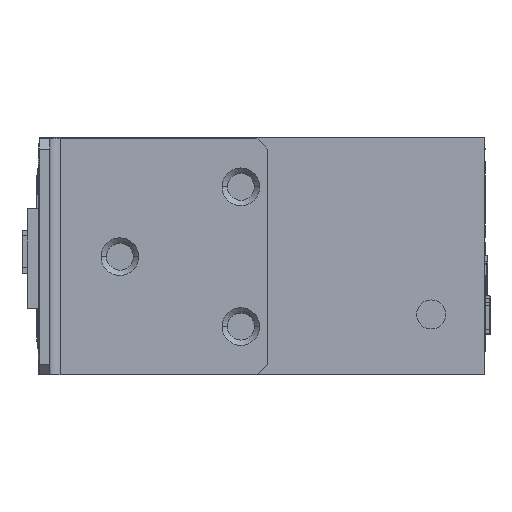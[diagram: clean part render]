
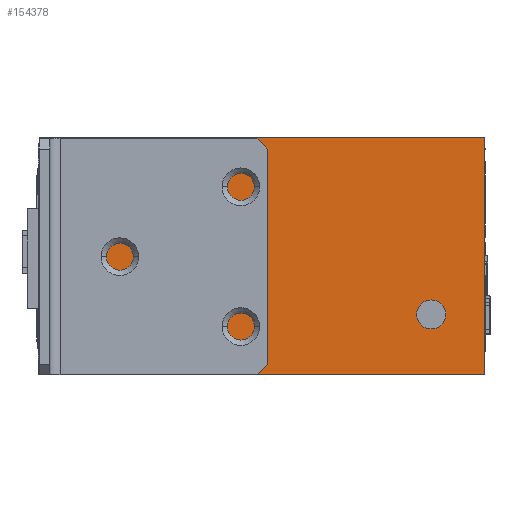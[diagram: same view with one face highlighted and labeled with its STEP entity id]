
A CAD part, left-side view. The second image highlights one B-rep face of the part: STEP entity #154378.
In plain terms, the highlighted planar face has unit normal (-1, 0, 0).
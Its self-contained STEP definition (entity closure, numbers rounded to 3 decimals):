
#34277 = ORIENTED_EDGE ( 'NONE', *, *, #112130, .F. ) ;
#56030 = DIRECTION ( 'NONE',  ( 0., -1., 0. ) ) ;
#63379 = ORIENTED_EDGE ( 'NONE', *, *, #468588, .F. ) ;
#67742 = CIRCLE ( 'NONE', #507630, 2.7 ) ;
#100846 = CARTESIAN_POINT ( 'NONE',  ( -175., 101.041, 12.933 ) ) ;
#112130 = EDGE_CURVE ( 'NONE', #193637, #161944, #117197, .T. ) ;
#117197 = LINE ( 'NONE', #156109, #364998 ) ;
#118470 = CARTESIAN_POINT ( 'NONE',  ( -175., 98.341, 12.933 ) ) ;
#148001 = LINE ( 'NONE', #288600, #244790 ) ;
#154378 = ADVANCED_FACE ( 'NONE', ( #366979, #193305 ), #277133, .T. ) ;
#156109 = CARTESIAN_POINT ( 'NONE',  ( -175., 173.941, 1.683 ) ) ;
#159054 = AXIS2_PLACEMENT_3D ( 'NONE', #274168, #459710, #232213 ) ;
#161944 = VERTEX_POINT ( 'NONE', #237379 ) ;
#178098 = VECTOR ( 'NONE', #412919, 1000. ) ;
#193305 = FACE_BOUND ( 'NONE', #261894, .T. ) ;
#193637 = VERTEX_POINT ( 'NONE', #327584 ) ;
#194446 = CARTESIAN_POINT ( 'NONE',  ( -175., 103.741, 12.933 ) ) ;
#206862 = DIRECTION ( 'NONE',  ( 0., 0., 1. ) ) ;
#218904 = ORIENTED_EDGE ( 'NONE', *, *, #583200, .T. ) ;
#221679 = EDGE_CURVE ( 'NONE', #193637, #391624, #338458, .T. ) ;
#232213 = DIRECTION ( 'NONE',  ( 0., 0., 1. ) ) ;
#232570 = ORIENTED_EDGE ( 'NONE', *, *, #221679, .T. ) ;
#237379 = CARTESIAN_POINT ( 'NONE',  ( -175., 173.941, 45.933 ) ) ;
#242572 = CARTESIAN_POINT ( 'NONE',  ( -175., 101.041, 12.933 ) ) ;
#244790 = VECTOR ( 'NONE', #471193, 1000. ) ;
#261894 = EDGE_LOOP ( 'NONE', ( #218904, #438364 ) ) ;
#274168 = CARTESIAN_POINT ( 'NONE',  ( -175., 173.941, 1.683 ) ) ;
#277133 = PLANE ( 'NONE',  #159054 ) ;
#278334 = CARTESIAN_POINT ( 'NONE',  ( -175., 173.941, 45.933 ) ) ;
#283332 = DIRECTION ( 'NONE',  ( 1., 0., 0. ) ) ;
#288600 = CARTESIAN_POINT ( 'NONE',  ( -175., 91.041, 1.683 ) ) ;
#323223 = LINE ( 'NONE', #278334, #178098 ) ;
#324820 = VERTEX_POINT ( 'NONE', #118470 ) ;
#327584 = CARTESIAN_POINT ( 'NONE',  ( -175., 173.941, 1.683 ) ) ;
#338458 = LINE ( 'NONE', #473140, #556836 ) ;
#352077 = VERTEX_POINT ( 'NONE', #194446 ) ;
#364935 = AXIS2_PLACEMENT_3D ( 'NONE', #100846, #283332, #56030 ) ;
#364998 = VECTOR ( 'NONE', #206862, 1000. ) ;
#365992 = CARTESIAN_POINT ( 'NONE',  ( -175., 91.041, 1.683 ) ) ;
#366979 = FACE_OUTER_BOUND ( 'NONE', #556754, .T. ) ;
#372725 = EDGE_CURVE ( 'NONE', #352077, #324820, #67742, .T. ) ;
#391624 = VERTEX_POINT ( 'NONE', #365992 ) ;
#412919 = DIRECTION ( 'NONE',  ( 0., -1., 0. ) ) ;
#413332 = CARTESIAN_POINT ( 'NONE',  ( -175., 91.041, 45.933 ) ) ;
#433947 = DIRECTION ( 'NONE',  ( 0., -1., 0. ) ) ;
#434035 = DIRECTION ( 'NONE',  ( 0., -1., 0. ) ) ;
#438364 = ORIENTED_EDGE ( 'NONE', *, *, #372725, .T. ) ;
#459710 = DIRECTION ( 'NONE',  ( -1., 0., 0. ) ) ;
#468588 = EDGE_CURVE ( 'NONE', #161944, #539131, #323223, .T. ) ;
#471193 = DIRECTION ( 'NONE',  ( 0., 0., 1. ) ) ;
#473140 = CARTESIAN_POINT ( 'NONE',  ( -175., 173.941, 1.683 ) ) ;
#487847 = ORIENTED_EDGE ( 'NONE', *, *, #501884, .T. ) ;
#501884 = EDGE_CURVE ( 'NONE', #391624, #539131, #148001, .T. ) ;
#507630 = AXIS2_PLACEMENT_3D ( 'NONE', #242572, #568686, #433947 ) ;
#508017 = CIRCLE ( 'NONE', #364935, 2.7 ) ;
#539131 = VERTEX_POINT ( 'NONE', #413332 ) ;
#556754 = EDGE_LOOP ( 'NONE', ( #232570, #487847, #63379, #34277 ) ) ;
#556836 = VECTOR ( 'NONE', #434035, 1000. ) ;
#568686 = DIRECTION ( 'NONE',  ( 1., 0., 0. ) ) ;
#583200 = EDGE_CURVE ( 'NONE', #324820, #352077, #508017, .T. ) ;
